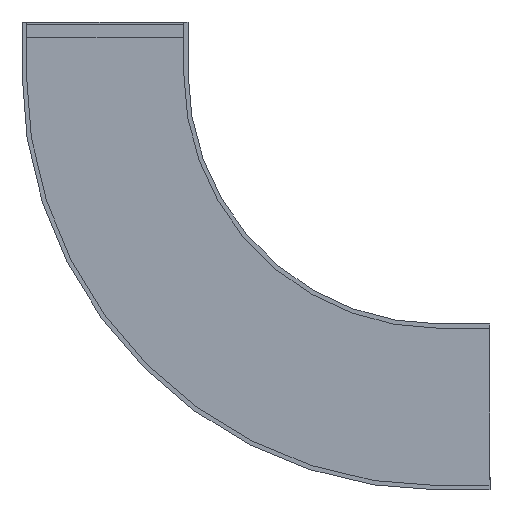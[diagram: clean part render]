
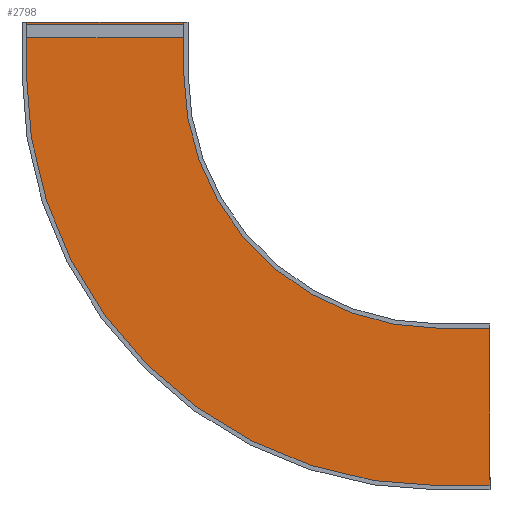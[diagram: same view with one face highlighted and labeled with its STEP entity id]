
A CAD part, front view. The second image highlights one B-rep face of the part: STEP entity #2798.
In plain terms, the highlighted planar face has unit normal (0, -1, 0).
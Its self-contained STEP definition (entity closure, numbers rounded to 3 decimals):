
#67 = FACE_OUTER_BOUND ( 'NONE', #1299, .T. ) ;
#325 = VECTOR ( 'NONE', #5945, 1000. ) ;
#326 = LINE ( 'NONE', #5946, #325 ) ;
#337 = VECTOR ( 'NONE', #5962, 1000. ) ;
#338 = LINE ( 'NONE', #5964, #337 ) ;
#556 = AXIS2_PLACEMENT_3D ( 'NONE', #3627, #3626, #3625 ) ;
#559 = AXIS2_PLACEMENT_3D ( 'NONE', #3641, #3640, #3639 ) ;
#663 = AXIS2_PLACEMENT_3D ( 'NONE', #5200, #5196, #5194 ) ;
#769 = EDGE_CURVE ( 'NONE', #2886, #3225, #338, .T. ) ;
#775 = EDGE_CURVE ( 'NONE', #3212, #3022, #326, .T. ) ;
#1299 = EDGE_LOOP ( 'NONE', ( #1686, #1687, #1690, #1691, #1692, #1693, #1694, #1696 ) ) ;
#1686 = ORIENTED_EDGE ( 'NONE', *, *, #5676, .F. ) ;
#1687 = ORIENTED_EDGE ( 'NONE', *, *, #5677, .F. ) ;
#1690 = ORIENTED_EDGE ( 'NONE', *, *, #5529, .T. ) ;
#1691 = ORIENTED_EDGE ( 'NONE', *, *, #775, .T. ) ;
#1692 = ORIENTED_EDGE ( 'NONE', *, *, #5678, .T. ) ;
#1693 = ORIENTED_EDGE ( 'NONE', *, *, #769, .F. ) ;
#1694 = ORIENTED_EDGE ( 'NONE', *, *, #5525, .F. ) ;
#1696 = ORIENTED_EDGE ( 'NONE', *, *, #5675, .T. ) ;
#2670 = DIRECTION ( 'NONE',  ( 0., 0., 1. ) ) ;
#2671 = CARTESIAN_POINT ( 'NONE',  ( 1500., -57.525, -1179. ) ) ;
#2672 = DIRECTION ( 'NONE',  ( 0., 0., 1. ) ) ;
#2674 = CARTESIAN_POINT ( 'NONE',  ( -321., -57.525, -200. ) ) ;
#2676 = DIRECTION ( 'NONE',  ( 1., 0., 0. ) ) ;
#2677 = CARTESIAN_POINT ( 'NONE',  ( 321., -57.525, 0. ) ) ;
#2678 = DIRECTION ( 'NONE',  ( 0., 0., 1. ) ) ;
#2679 = CARTESIAN_POINT ( 'NONE',  ( 321., -57.525, -200. ) ) ;
#2798 = ADVANCED_FACE ( 'NONE', ( #67 ), #5204, .T. ) ;
#2886 = VERTEX_POINT ( 'NONE', #4967 ) ;
#2926 = VERTEX_POINT ( 'NONE', #4887 ) ;
#3022 = VERTEX_POINT ( 'NONE', #5191 ) ;
#3028 = VERTEX_POINT ( 'NONE', #5182 ) ;
#3083 = VERTEX_POINT ( 'NONE', #5106 ) ;
#3184 = VERTEX_POINT ( 'NONE', #4961 ) ;
#3212 = VERTEX_POINT ( 'NONE', #4923 ) ;
#3225 = VERTEX_POINT ( 'NONE', #4905 ) ;
#3625 = DIRECTION ( 'NONE',  ( 0., 0., -1. ) ) ;
#3626 = DIRECTION ( 'NONE',  ( 0., -1., 0. ) ) ;
#3627 = CARTESIAN_POINT ( 'NONE',  ( 1300., -57.525, -200. ) ) ;
#3639 = DIRECTION ( 'NONE',  ( 0., 0., -1. ) ) ;
#3640 = DIRECTION ( 'NONE',  ( 0., -1., 0. ) ) ;
#3641 = CARTESIAN_POINT ( 'NONE',  ( 1300., -57.525, -200. ) ) ;
#4318 = VECTOR ( 'NONE', #2670, 1000. ) ;
#4319 = LINE ( 'NONE', #2671, #4318 ) ;
#4320 = VECTOR ( 'NONE', #2672, 1000. ) ;
#4321 = LINE ( 'NONE', #2674, #4320 ) ;
#4322 = VECTOR ( 'NONE', #2676, 1000. ) ;
#4323 = LINE ( 'NONE', #2677, #4322 ) ;
#4324 = VECTOR ( 'NONE', #2678, 1000. ) ;
#4325 = LINE ( 'NONE', #2679, #4324 ) ;
#4555 = CIRCLE ( 'NONE', #556, 1621. ) ;
#4561 = CIRCLE ( 'NONE', #559, 979. ) ;
#4887 = CARTESIAN_POINT ( 'NONE',  ( -321., -57.525, 0. ) ) ;
#4905 = CARTESIAN_POINT ( 'NONE',  ( 1500., -57.525, -1179. ) ) ;
#4923 = CARTESIAN_POINT ( 'NONE',  ( 1300., -57.525, -1821. ) ) ;
#4961 = CARTESIAN_POINT ( 'NONE',  ( -321., -57.525, -200. ) ) ;
#4967 = CARTESIAN_POINT ( 'NONE',  ( 1300., -57.525, -1179. ) ) ;
#5106 = CARTESIAN_POINT ( 'NONE',  ( 321., -57.525, 0. ) ) ;
#5182 = CARTESIAN_POINT ( 'NONE',  ( 321., -57.525, -200. ) ) ;
#5191 = CARTESIAN_POINT ( 'NONE',  ( 1500., -57.525, -1821. ) ) ;
#5194 = DIRECTION ( 'NONE',  ( 1., 0., 0. ) ) ;
#5196 = DIRECTION ( 'NONE',  ( 0., -1., 0. ) ) ;
#5200 = CARTESIAN_POINT ( 'NONE',  ( 321., -57.525, -200. ) ) ;
#5204 = PLANE ( 'NONE',  #663 ) ;
#5525 = EDGE_CURVE ( 'NONE', #3028, #2886, #4561, .T. ) ;
#5529 = EDGE_CURVE ( 'NONE', #3184, #3212, #4555, .T. ) ;
#5675 = EDGE_CURVE ( 'NONE', #3028, #3083, #4325, .T. ) ;
#5676 = EDGE_CURVE ( 'NONE', #2926, #3083, #4323, .T. ) ;
#5677 = EDGE_CURVE ( 'NONE', #3184, #2926, #4321, .T. ) ;
#5678 = EDGE_CURVE ( 'NONE', #3022, #3225, #4319, .T. ) ;
#5945 = DIRECTION ( 'NONE',  ( 1., 0., 0. ) ) ;
#5946 = CARTESIAN_POINT ( 'NONE',  ( 1300., -57.525, -1821. ) ) ;
#5962 = DIRECTION ( 'NONE',  ( 1., 0., 0. ) ) ;
#5964 = CARTESIAN_POINT ( 'NONE',  ( 1300., -57.525, -1179. ) ) ;
